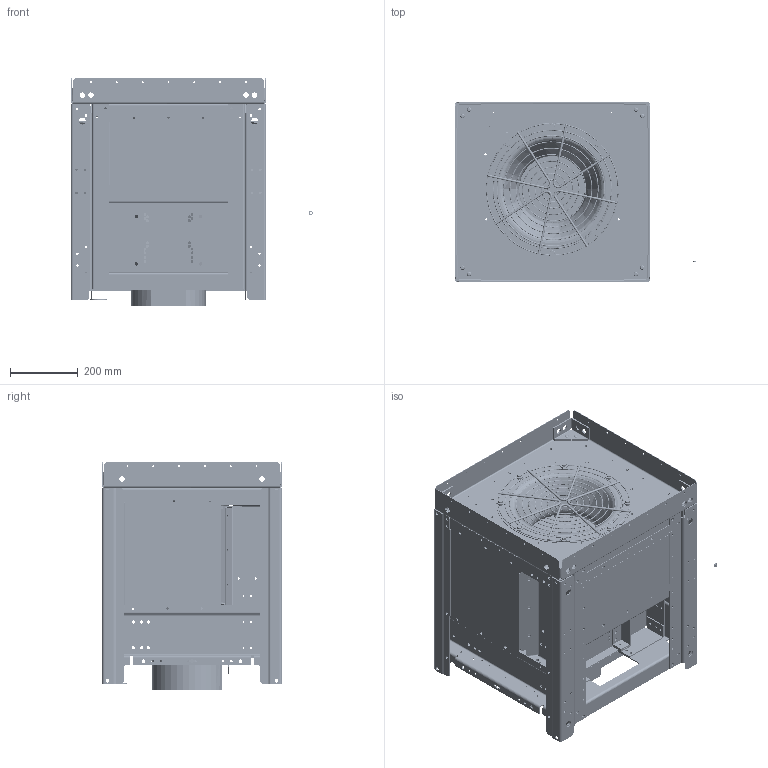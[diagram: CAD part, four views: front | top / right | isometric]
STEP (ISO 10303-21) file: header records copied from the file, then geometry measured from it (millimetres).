
FILE_DESCRIPTION((''),'2;1');
FILE_NAME('122_100_184T_ASM_ASM','2016-08-03T',('cthatcc'),(''),'CREO PARAMETRIC BY PTC INC, 2016050','CREO PARAMETRIC BY PTC INC, 2016050','');
FILE_SCHEMA(('CONFIG_CONTROL_DESIGN'));
Length unit declared in the file: inch
Products named in the file (73): 0575820014_1; 0575830006_1; 0575740010_1; 0575880009_1; 0578340001_1; 057834_MIR_1; 0575820014_MIR_1; 0575990014_ASM_2_ASM; 0575680017; NEMA_184T_TEFC_1; 0575690008_1; 0576650018_1; 0575650012_5; 0575760006_8; 0575880014_1; 057581_1; NUT-INSERT_RIVET_31-18THD_1; WA012_1; HCS048_2; 0575660012_1; 0575700018_1; 0575790028_1; 0575890015_ASM_1_ASM; 0575660013_1; 0575700019_1; 0575790029_1; 0575890016_ASM_1_ASM; 058559_1; INLETGUARD_122_1; RING_R_1; RING_T_1; ROD_122_1; 0576560008_ASM_1_ASM; 0585510015_1; 0585510016_1; WHEEL_DUMMY_122_1; 057699-122-001_4; X01057699-122-012_4; 057699-122-002_4; 057699-122-010_4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
Assembly tree (174 placements, depth 5):
  122_100_184T_ASM_ASM
    122_100_184T_TRANE_ASM_20_ASM
      0575990014_ASM_2_ASM  x2
        0575820014_1
        0575830006_1
        0575740010_1
        0575880009_1
        0578340001_1
        057834_MIR_1
        0575820014_MIR_1
      0575680017
      NEMA_184T_TEFC_1
      0575690008_1
      0576650018_1
      0575650012_5
      0575760006_8
      0575880014_1  x3
      057581_1  x4
      NUT-INSERT_RIVET_31-18THD_1  x8
      WA012_1  x8
      HCS048_2  x8
      0575890015_ASM_1_ASM
        0575660012_1
        0575700018_1
        0575790028_1
      0575890016_ASM_1_ASM
        0575660013_1
        0575700019_1
        0575790029_1
      058559_1
      0576560008_ASM_1_ASM
        INLETGUARD_122_1
        RING_R_1
        RING_T_1
        ROD_122_1  x4
      0585510015_1  x2
      0585510016_1  x2
      WHEEL_DUMMY_122_1
      057699-122_ASM_40_ASM
        057699-122__ASM_4_ASM
          057699-122-001_4
          X01057699-122-012_4
          057699-122-002_4
          057699-122-010_4
          X01057699-122-013_4
          X01057699-122-004_4  x12
          057699-122-008_4  x11
          057699-122-014_4  x2
          057699--165-015__4  x2
          057699-122-009_4
          057699-122-011_4
          057699-122-016_4
          057699-122-017_4
          057699-122-025__4
          057699-122-026__4
          057699-122-027__4
          057699-122-028__4
        X20057699-122-MIR_ASM_6_ASM
          057699-122-001_MIR_5
          X01057699-122-012_4
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Bounding box: 714.51 x 530.61 x 673.61 mm (x, y, z)
Volume: 49240008.9 mm3; surface area: 9419844.3 mm2
Topology: 171 solids, 171 shells, 4554 faces, 11347 edges, 7188 vertices
Faces by surface type: cylinder 2535, plane 1731, torus 164, bspline 66, cone 58
Entity records: 105490 total; most frequent: CARTESIAN_POINT 32505, DIRECTION 16168, ORIENTED_EDGE 13822, EDGE_CURVE 6911, AXIS2_PLACEMENT_3D 6306, VERTEX_POINT 4322, EDGE_LOOP 3889, VECTOR 3556
